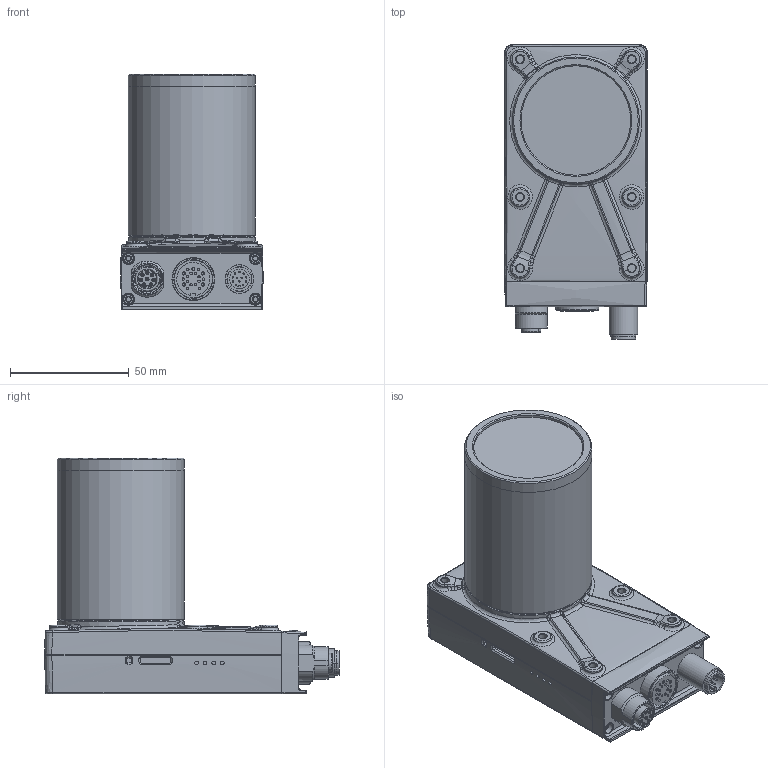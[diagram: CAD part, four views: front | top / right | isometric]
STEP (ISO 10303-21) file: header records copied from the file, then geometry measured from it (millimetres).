
FILE_DESCRIPTION(/* description */ ('CURRERA-R 3D model 1b'),/* implementation_level */ '2;1');
FILE_NAME(/* name */ 'CR_3D_exp_asm_1.stp',/* time_stamp */ '2011-09-06T13:30:01+02:00',/* author */ ('STEFEK'),/* organization */ ('XIMEA GmbH'),/* preprocessor_version */ 'ST-DEVELOPER v12',/* originating_system */ 'XIMEA Data Exchange',/* authorisation */ 'LARIN');
FILE_SCHEMA (('CONFIG_CONTROL_DESIGN'));
Length unit declared in the file: millimetre
Products named in the file (15): (#357325) 09-3482-275-084543; (#357325) 09-3482-275-084538; tube_s_base_1a; tube_s_fh_1a; glass_49x1_2_1a; (#330201) 09-0464-90-194518; (#315796) 09-3491-969-12; (#303119) Open CASCADE STEP translator 6.2 1.2.1.2; cur_bot_4; cur_bp_4; cur_top_4; (#4023) 5019515010; (#357325) 09-3482-275-08_MODEL; tube_s_asm_1a_MODEL; CR_3D_exp_asm_1
Assembly tree (15 placements, depth 3):
  CR_3D_exp_asm_1
    cur_top_4
    cur_bp_4
    cur_bot_4
    tube_s_asm_1a_MODEL
      glass_49x1_2_1a
      tube_s_fh_1a
      tube_s_base_1a
    (#303119) Open CASCADE STEP translator 6.2 1.2.1.2
    (#315796) 09-3491-969-12
    (#330201) 09-0464-90-194518
    (#357325) 09-3482-275-08_MODEL
      (#357325) 09-3482-275-084538
      (#357325) 09-3482-275-084543
    (#4023) 5019515010
      (#303119) Open CASCADE STEP translator 6.2 1.2.1.2
Bounding box: 59.88 x 123.91 x 99.3 mm (x, y, z)
Volume: 95355.7 mm3; surface area: 84238.5 mm2
Topology: 11 solids, 11 shells, 1612 faces, 4298 edges, 2804 vertices
Faces by surface type: cylinder 569, plane 429, bspline 254, cone 180, torus 91, sphere 74, extrusion 15
Full cylindrical faces by diameter (mm): 1.5 x4, 1.56 x3, 1.567 x5, 2.013 x8, 2.459 x4, 2.5 x9, 3.2 x4, 3.242 x6, 3.9 x8, 4 x8, 4.7 x4, 4.8 x7, 5.5 x2, 12.1 x1, 19.55 x1, 20.25 x1, 21.1 x1, 24.541 x1, 25.6 x1, 29.1 x1, 46.1 x1, 47.1 x1, 49 x1, 49.1 x1, 49.188 x1, 49.2 x2, 50 x1, 52.1 x1, 52.2 x1, 52.5 x1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
Entity records: 57904 total; most frequent: CARTESIAN_POINT 17062, DIRECTION 8587, ORIENTED_EDGE 8070, EDGE_CURVE 4035, AXIS2_PLACEMENT_3D 3775, VERTEX_POINT 2761, CIRCLE 2288, EDGE_LOOP 1972
